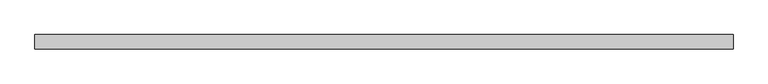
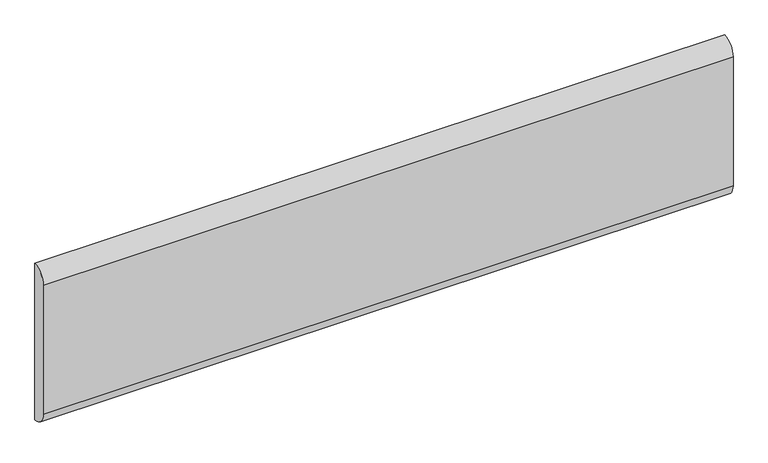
"""IFC4 building model written with IfcOpenShell, lengths in millimetres: furniture geometry."""

from ifc_helpers import new_model, si_unit, point, frame, frame_2d, origin, place, context, project, spatial, polyline, circle_curve, trimmed, segment, composite_curve, outline, extrude, source, transform, mapped, element, save


def furniture_49f88748(model_context):
    return source(origin(), model_context, "Body", "SweptSolid", [
        extrude(outline(composite_curve([segment(trimmed(circle_curve(frame_2d((12.7, 958.85)), 25.4), [point((12.7, 933.45))], [point((-12.7, 958.85))], False, "CARTESIAN"), True, "CONTINUOUS"), segment(polyline([(-12.7, 958.85), (-12.7, 1200.15)]), True, "CONTINUOUS"), segment(trimmed(circle_curve(frame_2d((12.7, 1200.15)), 25.4), [point((-12.7, 1200.15))], [point((12.7, 1225.55))], False, "CARTESIAN"), True, "CONTINUOUS"), segment(polyline([(12.7, 1225.55), (12.7, 933.45)]), True, "CONTINUOUS")], self_intersect=False)), frame((-609.6, 0.0, 0.0), z_axis=(1.0, 0.0, 0.0), x_axis=(0.0, 1.0, 0.0)), (0.0, 0.0, 1.0), 1219.2),
    ])


if __name__ == "__main__":
    model = new_model("IFC4")
    model_context = context("Model", 3, world=origin())
    ifc_project = project(units=[si_unit("LENGTHUNIT", "METRE", prefix="MILLI")], contexts=[model_context])
    site = spatial("IfcSite", under=ifc_project)
    building = spatial("IfcBuilding", under=site)
    placement = place(None, origin())
    furniture_shape = furniture_49f88748(model_context)
    element("IfcFurniture", 1, ObjectType="HermanMiller_ActionOffice_A3410_B-StyleTackboard : 12\"H x 48\"W", at=placement, inside=building, context=model_context, shape_type="MappedRepresentation", body=[
        mapped(furniture_shape, transform((0.0, 0.0, 0.0), x_axis=(1.0, 0.0, 0.0), y_axis=(0.0, 1.0, 0.0), z_axis=(0.0, 0.0, 1.0))),
    ])
    save(model, "model.ifc")
